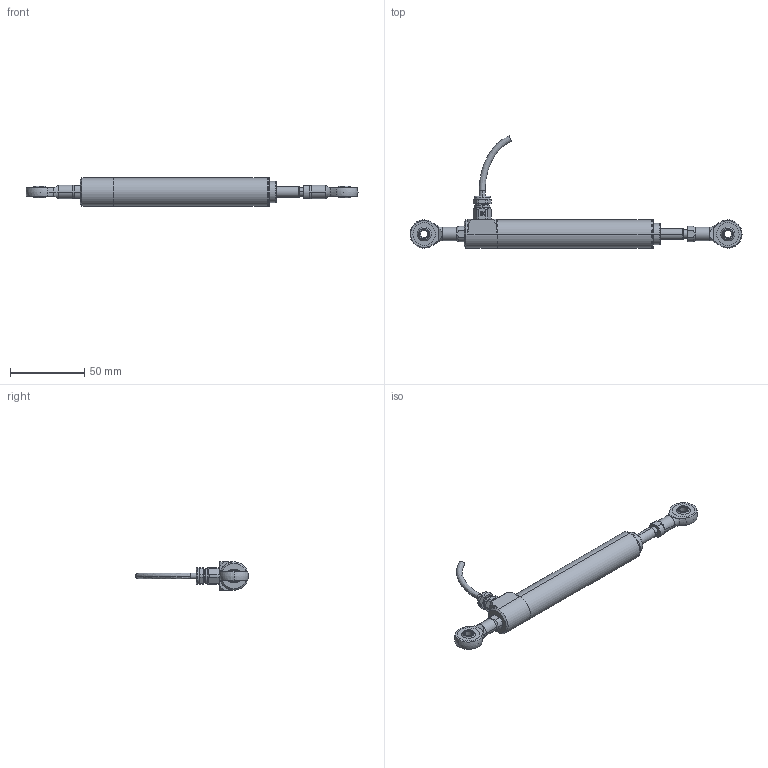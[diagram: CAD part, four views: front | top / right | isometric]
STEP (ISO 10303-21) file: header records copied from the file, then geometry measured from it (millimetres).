
FILE_DESCRIPTION (( 'STEP AP214' ), '1' );
FILE_NAME ('P118-50AKSU.STEP', '2025-04-10T10:32:54', ( '' ), ( '' ), 'SwSTEP 2.0', 'SolidWorks 2023', '' );
FILE_SCHEMA (( 'AUTOMOTIVE_DESIGN' ));
Length unit declared in the file: millimetre
Products named in the file (1): P118-50AKSU
Bounding box: 222.85 x 75.5 x 19.05 mm (x, y, z)
Surface area: 15978.6 mm2 (no closed solid volume)
Topology: 0 solids, 16 shells, 177 faces, 502 edges, 342 vertices
Faces by surface type: cylinder 55, plane 50, cone 42, torus 20, sphere 8, bspline 2
Entity records: 6290 total; most frequent: CARTESIAN_POINT 1734, DIRECTION 1006, ORIENTED_EDGE 867, EDGE_CURVE 488, AXIS2_PLACEMENT_3D 426, VERTEX_POINT 336, CIRCLE 250, EDGE_LOOP 206
